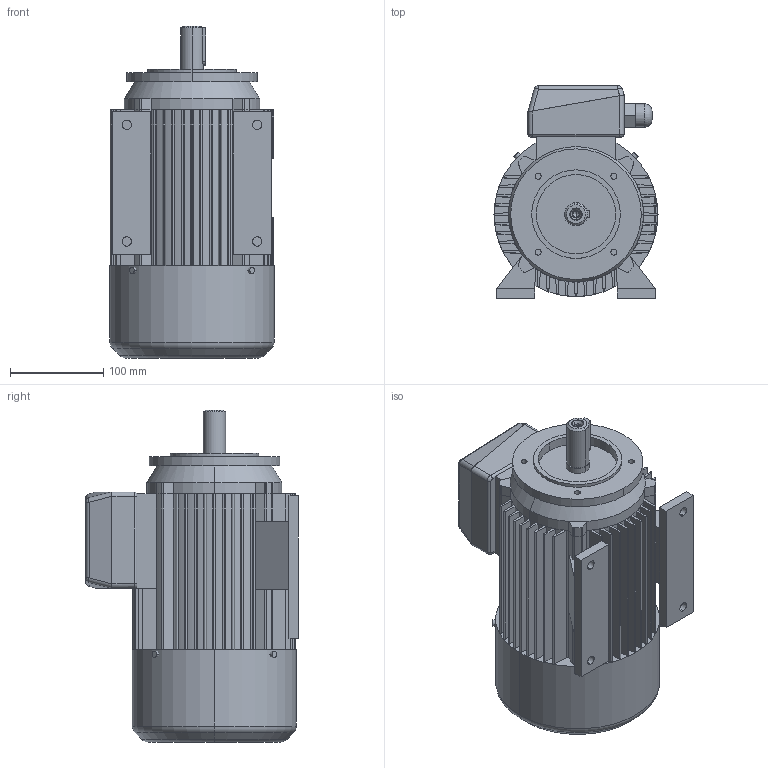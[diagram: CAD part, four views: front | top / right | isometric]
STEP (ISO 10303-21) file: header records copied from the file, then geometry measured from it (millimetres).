
FILE_DESCRIPTION (( 'STEP AP203' ), '1' );
FILE_NAME ('2SIEL90L4,6-B34-C2.STEP', '2013-01-07T12:48:26', ( 'INDUKTA' ), ( 'CANTONI MOTOR' ), 'SwSTEP 2.0', 'SolidWorks 2003064', '' );
FILE_SCHEMA (( 'CONFIG_CONTROL_DESIGN' ));
Length unit declared in the file: millimetre
Products named in the file (1): 2SIEL90L4,6-B34-C2
Bounding box: 176 x 228 x 356 mm (x, y, z)
Volume: 6994899.6 mm3; surface area: 541747.8 mm2
Topology: 13 solids, 13 shells, 408 faces, 1059 edges, 680 vertices
Faces by surface type: plane 192, cylinder 188, cone 14, torus 10, sphere 4
Entity records: 12582 total; most frequent: DIRECTION 2274, CARTESIAN_POINT 2203, ORIENTED_EDGE 2106, EDGE_CURVE 1053, AXIS2_PLACEMENT_3D 823, VERTEX_POINT 680, LINE 628, VECTOR 628
